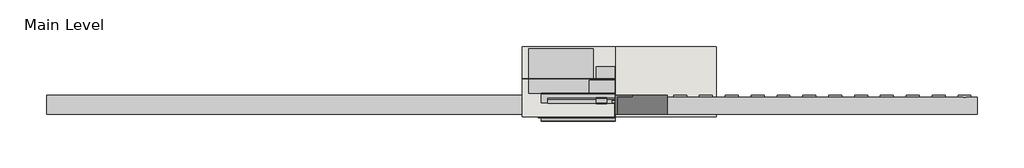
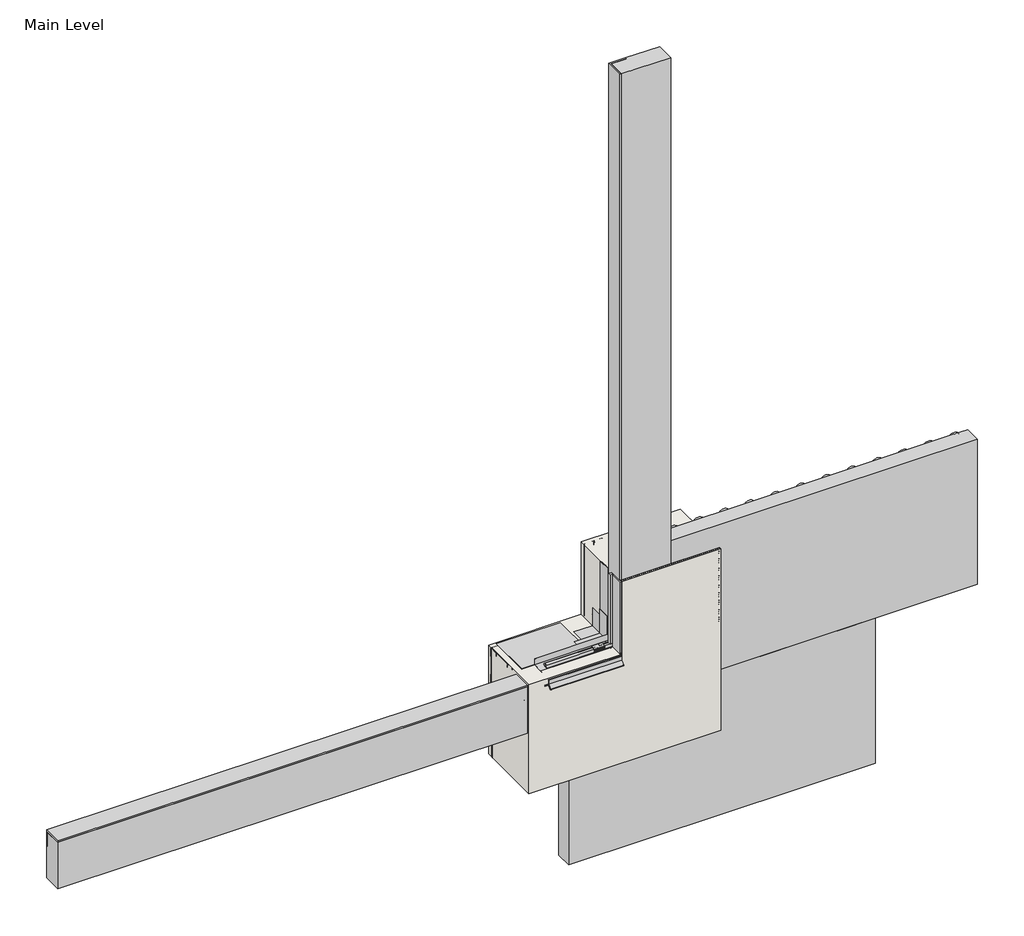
# One storey, incomplete: 25 proxies, 1 wall.
"""IFC4 building model written with IfcOpenShell, lengths in millimetres."""

from ifc_helpers import new_model, si_unit, frame, origin, place, context, project, spatial, polyline, outline, extrude, transform, mapped, element, save
from components import generic_models_31547c53, generic_models_d28646c3, generic_models_6d26ea6e, generic_models_db5184ed, generic_models_008a3d59, generic_models_12b73edd, generic_models_724a5e66, generic_models_bb7dc723, proxy_4c3b85e5, proxy_c7e97176, proxy_46de1dcf, finish_coat_filler_finish_coat_filler_9b34bf11, masonry_sill_masonry_sill_39c7edd1, masonry_sill3_masonry_sill_d59b7927, masonry_sill4_masonry_sill_f52e6068, proxy_a3fd9b0b, proxy_3a0ad636, proxy_0073da47, proxy_6f3203ff, window_header_window_header_abd4ef46, wood_blocking_5320d369

model = new_model("IFC4")

# Units and contexts
model_context = context("Model", 3, world=origin())
ifc_project = project(units=[si_unit("LENGTHUNIT", "METRE", prefix="MILLI")], contexts=[model_context])

# Site, building, storey
site = spatial("IfcSite", under=ifc_project)
building = spatial("IfcBuilding", under=site)
storey = spatial("IfcBuildingStorey", under=building, Name="Main Level", Elevation=0.0)

# Proxies
placement = place(None, origin())
generic_models_shape = generic_models_31547c53(model_context)
element("IfcBuildingElementProxy", 1, Name="Durabond Generic Model Sealant Vent : Durabond Generic Model Sealant Vent", ObjectType="Durabond Generic Model Sealant Vent : Durabond Generic Model Sealant Vent", at=placement, inside=storey, context=model_context, shape_type="MappedRepresentation", body=[
    mapped(generic_models_shape, transform((26800.7195523, 590.8476543, 464.646745), x_axis=(1.0, 0.0, 0.0), y_axis=(0.0, 0.08715574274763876, -0.9961946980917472), z_axis=(0.0, 0.9961946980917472, 0.08715574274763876))),
])
generic_models_2_shape = generic_models_d28646c3(model_context)
element("IfcBuildingElementProxy", 2, Name="CRAi Generic Model Line Based Drip Deflector : CRAi Generic Model Line Based Drip Deflector", ObjectType="CRAi Generic Model Line Based Drip Deflector : CRAi Generic Model Line Based Drip Deflector", at=placement, inside=storey, context=model_context, shape_type="MappedRepresentation", body=[
    mapped(generic_models_2_shape, transform((26855.8851773, 535.1829375, 451.8088934), x_axis=(0.0, 0.996194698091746, 0.08715574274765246), y_axis=(-1.0, 0.0, 0.0), z_axis=(0.0, -0.0871557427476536, 0.996194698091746))),
])
generic_models_3_shape = generic_models_6d26ea6e(model_context)
generic_models_4_shape = generic_models_db5184ed(model_context)
generic_models_5_shape = generic_models_008a3d59(model_context)
generic_models_6_shape = generic_models_12b73edd(model_context)
element("IfcBuildingElementProxy", 3, Name="CRAi Generic Model Mesh Piece Face Based : CRAi Generic Model Mesh Piece Face Based", ObjectType="CRAi Generic Model Mesh Piece Face Based : CRAi Generic Model Mesh Piece Face Based", at=placement, inside=storey, context=model_context, shape_type="MappedRepresentation", body=[
    mapped(generic_models_3_shape, transform((27054.3226773, 541.9066297, 606.6633203), x_axis=(-1.0, 0.0, 0.0), y_axis=(0.0, 0.0, -1.0), z_axis=(0.0, -1.0, 0.0))),
    mapped(generic_models_4_shape, transform((27054.3226773, 541.9066297, 606.6633203), x_axis=(-1.0, 0.0, 0.0), y_axis=(0.0, 0.0, -1.0), z_axis=(0.0, -1.0, 0.0))),
    mapped(generic_models_5_shape, transform((27054.3226773, 541.9066297, 606.6633203), x_axis=(-1.0, 0.0, 0.0), y_axis=(0.0, 0.0, -1.0), z_axis=(0.0, -1.0, 0.0))),
    mapped(generic_models_6_shape, transform((27054.3226773, 541.9066297, 606.6633203), x_axis=(-1.0, 0.0, 0.0), y_axis=(0.0, 0.0, -1.0), z_axis=(0.0, -1.0, 0.0))),
])
generic_models_7_shape = generic_models_724a5e66(model_context)
element("IfcBuildingElementProxy", 4, Name="Durabond Generic Model Insulation Adhesive Flat : Durabond Generic Model Insulation Adhesive Flat", ObjectType="Durabond Generic Model Insulation Adhesive Flat : Durabond Generic Model Insulation Adhesive Flat", at=placement, inside=storey, context=model_context, shape_type="MappedRepresentation", body=[
    mapped(generic_models_7_shape, transform((26703.4851773, 627.6316297, 381.0), x_axis=(1.0, 0.0, 0.0), y_axis=(0.0, -1.0, 0.0), z_axis=(0.0, 0.0, -1.0))),
])
element("IfcBuildingElementProxy", 5, Name="Durabond Generic Model Insulation Adhesive Flat : Durabond Generic Model Insulation Adhesive Flat", ObjectType="Durabond Generic Model Insulation Adhesive Flat : Durabond Generic Model Insulation Adhesive Flat", at=placement, inside=storey, context=model_context, shape_type="MappedRepresentation", body=[
    mapped(generic_models_7_shape, transform((26805.0851773, 627.6316297, 381.0), x_axis=(1.0, 0.0, 0.0), y_axis=(0.0, -1.0, 0.0), z_axis=(0.0, 0.0, -1.0))),
])
generic_models_8_shape = generic_models_bb7dc723(model_context)
element("IfcBuildingElementProxy", 6, Name="Durabond Generic Model Insulation Adhesive Flat : Durabond Generic Model Insulation Adhesive Flat", ObjectType="Durabond Generic Model Insulation Adhesive Flat : Durabond Generic Model Insulation Adhesive Flat", at=placement, inside=storey, context=model_context, shape_type="MappedRepresentation", body=[
    mapped(generic_models_8_shape, transform((26906.6851773, 627.6316297, 762.0), x_axis=(1.0, 0.0, 0.0), y_axis=(0.0, -1.0, 0.0), z_axis=(0.0, 0.0, -1.0))),
])
element("IfcBuildingElementProxy", 7, Name="Durabond Generic Model Insulation Adhesive Flat : Durabond Generic Model Insulation Adhesive Flat", ObjectType="Durabond Generic Model Insulation Adhesive Flat : Durabond Generic Model Insulation Adhesive Flat", at=placement, inside=storey, context=model_context, shape_type="MappedRepresentation", body=[
    mapped(generic_models_8_shape, transform((27008.2851773, 627.6316297, 762.0), x_axis=(1.0, 0.0, 0.0), y_axis=(0.0, -1.0, 0.0), z_axis=(0.0, 0.0, -1.0))),
])
element("IfcBuildingElementProxy", 8, Name="Durabond Generic Model Insulation Adhesive Flat : Durabond Generic Model Insulation Adhesive Flat", ObjectType="Durabond Generic Model Insulation Adhesive Flat : Durabond Generic Model Insulation Adhesive Flat", at=placement, inside=storey, context=model_context, shape_type="MappedRepresentation", body=[
    mapped(generic_models_8_shape, transform((27109.8851773, 627.6316297, 762.0), x_axis=(1.0, 0.0, 0.0), y_axis=(0.0, -1.0, 0.0), z_axis=(0.0, 0.0, -1.0))),
])
element("IfcBuildingElementProxy", 9, Name="Durabond Generic Model Insulation Adhesive Flat : Durabond Generic Model Insulation Adhesive Flat", ObjectType="Durabond Generic Model Insulation Adhesive Flat : Durabond Generic Model Insulation Adhesive Flat", at=placement, inside=storey, context=model_context, shape_type="MappedRepresentation", body=[
    mapped(generic_models_8_shape, transform((27211.4851773, 627.6316297, 762.0), x_axis=(1.0, 0.0, 0.0), y_axis=(0.0, -1.0, 0.0), z_axis=(0.0, 0.0, -1.0))),
])
proxy_shape = proxy_4c3b85e5(model_context)
element("IfcBuildingElementProxy", 10, Name="Durabond Generic Model Quantum Select 5-0 Boundary Board : 3\"", ObjectType="Durabond Generic Model Quantum Select 5-0 Boundary Board : 3\"", at=placement, inside=storey, context=model_context, shape_type="MappedRepresentation", body=[
    mapped(proxy_shape, transform((25839.8851773, 624.4566297, 349.375778), x_axis=(-1.0, 0.0, 0.0), y_axis=(0.0, 0.0, -1.0), z_axis=(0.0, -1.0, 0.0))),
])
proxy_2_shape = proxy_c7e97176(model_context)
element("IfcBuildingElementProxy", 11, Name="Durabond Generic Model Quantum Select 5-0 Boundary Board : 3\"", ObjectType="Durabond Generic Model Quantum Select 5-0 Boundary Board : 3\"", at=placement, inside=storey, context=model_context, shape_type="MappedRepresentation", body=[
    mapped(proxy_2_shape, transform((26957.4851773, 624.4566297, 1670.175778), x_axis=(0.0, 0.0, 1.0), y_axis=(-1.0, 0.0, 0.0), z_axis=(0.0, -1.0, 0.0))),
])
proxy_3_shape = proxy_46de1dcf(model_context)
element("IfcBuildingElementProxy", 12, Name="Durabond Generic Model Quantum Select 5-0 Insulation Board : 3\"", ObjectType="Durabond Generic Model Quantum Select 5-0 Insulation Board : 3\"", at=placement, inside=storey, context=model_context, shape_type="MappedRepresentation", body=[
    mapped(proxy_3_shape, transform((27262.2851773, 624.4566297, -57.024222), x_axis=(1.0, 0.0, 0.0), y_axis=(0.0, 0.0, 1.0), z_axis=(0.0, -1.0, 0.0))),
])
element("IfcBuildingElementProxy", 13, Name="Durabond Generic Model Quantum Select 5-0 Insulation Board : 3\"", ObjectType="Durabond Generic Model Quantum Select 5-0 Insulation Board : 3\"", at=placement, inside=storey, context=model_context, shape_type="MappedRepresentation", body=[
    mapped(proxy_3_shape, transform((27668.6851773, 624.4566297, 552.575778), x_axis=(1.0, 0.0, 0.0), y_axis=(0.0, 0.0, 1.0), z_axis=(0.0, -1.0, 0.0))),
])
finish_coat_filler_finish_coat_filler_shape = finish_coat_filler_finish_coat_filler_9b34bf11(model_context)
element("IfcBuildingElementProxy", 14, Name="Finish Coat Filler : Finish Coat Filler", ObjectType="Finish Coat Filler : Finish Coat Filler", at=placement, inside=storey, context=model_context, shape_type="MappedRepresentation", body=[
    mapped(finish_coat_filler_finish_coat_filler_shape, transform((0.0, 0.0, -152.4), x_axis=(1.0, 0.0, 0.0), y_axis=(0.0, 1.0, 0.0), z_axis=(0.0, 0.0, 1.0))),
])
masonry_sill_masonry_sill_shape = masonry_sill_masonry_sill_39c7edd1(model_context)
element("IfcBuildingElementProxy", 15, Name="Masonry Sill : Masonry Sill", ObjectType="Masonry Sill : Masonry Sill", at=placement, inside=storey, context=model_context, shape_type="MappedRepresentation", body=[
    mapped(masonry_sill_masonry_sill_shape, transform((0.0, 0.0, 0.0), x_axis=(1.0, 0.0, 0.0), y_axis=(0.0, 1.0, 0.0), z_axis=(0.0, 0.0, 1.0))),
])
masonry_sill3_masonry_sill_shape = masonry_sill3_masonry_sill_d59b7927(model_context)
element("IfcBuildingElementProxy", 16, Name="Masonry Sill3 : Masonry Sill", ObjectType="Masonry Sill3 : Masonry Sill", at=placement, inside=storey, context=model_context, shape_type="MappedRepresentation", body=[
    mapped(masonry_sill3_masonry_sill_shape, transform((0.0, 0.0, 0.0), x_axis=(1.0, 0.0, 0.0), y_axis=(0.0, 1.0, 0.0), z_axis=(0.0, 0.0, 1.0))),
])
masonry_sill4_masonry_sill_shape = masonry_sill4_masonry_sill_f52e6068(model_context)
element("IfcBuildingElementProxy", 17, Name="Masonry Sill4 : Masonry Sill", ObjectType="Masonry Sill4 : Masonry Sill", at=placement, inside=storey, context=model_context, shape_type="MappedRepresentation", body=[
    mapped(masonry_sill4_masonry_sill_shape, transform((0.0, 0.0, -101.6), x_axis=(1.0, 0.0, 0.0), y_axis=(0.0, 1.0, 0.0), z_axis=(0.0, 0.0, 1.0))),
])
proxy_4_shape = proxy_a3fd9b0b(model_context)
element("IfcBuildingElementProxy", 18, Name="CRAi Generic Model Metal Stud : Metal Framing Stud - 1\" x 3.5\"", ObjectType="CRAi Generic Model Metal Stud : Metal Framing Stud - 1\" x 3.5\"", at=placement, inside=storey, context=model_context, shape_type="MappedRepresentation", body=[
    mapped(proxy_4_shape, transform((26876.5226773, 726.0566297, 0.0), x_axis=(1.0, 0.0, 0.0), y_axis=(0.0, 1.0, 0.0), z_axis=(0.0, 0.0, 1.0))),
])
proxy_5_shape = proxy_3a0ad636(model_context)
element("IfcBuildingElementProxy", 19, Name="CRAi Generic Model Metal Stud : Metal Framing Stud - 1\" x 3.5\"", ObjectType="CRAi Generic Model Metal Stud : Metal Framing Stud - 1\" x 3.5\"", at=placement, inside=storey, context=model_context, shape_type="MappedRepresentation", body=[
    mapped(proxy_5_shape, transform((26876.5226773, 726.0566297, 0.0), x_axis=(1.0, 0.0, 0.0), y_axis=(0.0, 1.0, 0.0), z_axis=(0.0, 0.0, 1.0))),
])
proxy_6_shape = proxy_0073da47(model_context)
element("IfcBuildingElementProxy", 20, Name="CRAi Generic Model Metal Stud : Metal Framing Stud - 1\" x 3.5\"", ObjectType="CRAi Generic Model Metal Stud : Metal Framing Stud - 1\" x 3.5\"", at=placement, inside=storey, context=model_context, shape_type="MappedRepresentation", body=[
    mapped(proxy_6_shape, transform((26914.6226773, 726.0566297, 0.0), x_axis=(-1.0, 0.0, 0.0), y_axis=(0.0, -1.0, 0.0), z_axis=(0.0, 0.0, 1.0))),
])
proxy_7_shape = proxy_6f3203ff(model_context)
element("IfcBuildingElementProxy", 21, Name="CRAi Generic Model Metal Stud : Metal Framing Stud - 1\" x 3.5\"", ObjectType="CRAi Generic Model Metal Stud : Metal Framing Stud - 1\" x 3.5\"", at=placement, inside=storey, context=model_context, shape_type="MappedRepresentation", body=[
    mapped(proxy_7_shape, transform((26508.2226773, 726.0566297, 0.0), x_axis=(-1.0, 0.0, 0.0), y_axis=(0.0, -1.0, 0.0), z_axis=(0.0, 0.0, 1.0))),
])
window_header_window_header_shape = window_header_window_header_abd4ef46(model_context)
element("IfcBuildingElementProxy", 22, Name="Window Header : Window Header", ObjectType="Window Header : Window Header", at=placement, inside=storey, context=model_context, shape_type="MappedRepresentation", body=[
    mapped(window_header_window_header_shape, transform((0.0, 0.0, 0.0), x_axis=(1.0, 0.0, 0.0), y_axis=(0.0, 1.0, 0.0), z_axis=(0.0, 0.0, 1.0))),
])
wood_blocking_shape = wood_blocking_5320d369(model_context)
element("IfcBuildingElementProxy", 23, Name="CRAi Generic Model Line Based Metal Framing Track : Wood Blocking", ObjectType="CRAi Generic Model Line Based Metal Framing Track : Wood Blocking", at=placement, inside=storey, context=model_context, shape_type="MappedRepresentation", body=[
    mapped(wood_blocking_shape, transform((26489.1726773, 649.8566297, 304.8), x_axis=(1.0, 0.0, 0.0), y_axis=(0.0, 1.0, 0.0), z_axis=(0.0, 0.0, 1.0))),
])
element("IfcBuildingElementProxy", 24, Name="CRAi Generic Model Line Based Metal Framing Track : Wood Blocking", ObjectType="CRAi Generic Model Line Based Metal Framing Track : Wood Blocking", at=placement, inside=storey, context=model_context, shape_type="MappedRepresentation", body=[
    mapped(wood_blocking_shape, transform((26489.1726773, 802.257101, 457.2), x_axis=(1.0, 0.0, 0.0), y_axis=(0.0, -1.0, 0.0), z_axis=(0.0, 0.0, -1.0))),
])
element("IfcBuildingElementProxy", 25, Name="CRAi Generic Model Line Based Metal Framing Track : Wood Blocking", ObjectType="CRAi Generic Model Line Based Metal Framing Track : Wood Blocking", at=placement, inside=storey, context=model_context, shape_type="MappedRepresentation", body=[
    mapped(wood_blocking_shape, transform((26489.1726773, 802.2566297, 304.8), x_axis=(1.0, 0.0, 0.0), y_axis=(0.0, -1.0, 0.0), z_axis=(0.0, 0.0, -1.0))),
])

# Wall
element("IfcWall", 26, ObjectType="189mm (7.5”) EIFS Field Applied on Mtl. Stud Layer - 50mm Grooved Insulation Board Metal Stud Wall", at=placement, inside=storey, context=model_context, shape_type="SweptSolid", body=[
    extrude(outline(polyline([(0.0, 26489.1726773), (0.0, 27251.1726773), (762.0, 27251.1726773), (762.0, 26857.4726773), (457.2, 26857.4726773), (457.2, 26489.1726773), (0.0, 26489.1726773)])), frame((0.0, 538.7316297, 0.0), z_axis=(0.0, 1.0, 0.0), x_axis=(0.0, 0.0, 1.0)), (0.0, 0.0, 1.0), 276.225),
])

save(model, "model.ifc")
